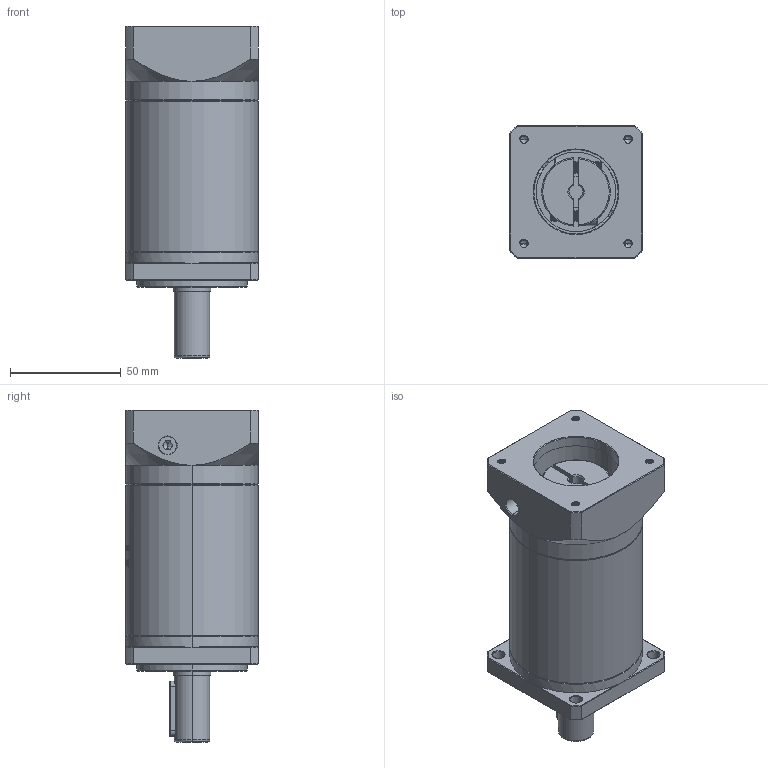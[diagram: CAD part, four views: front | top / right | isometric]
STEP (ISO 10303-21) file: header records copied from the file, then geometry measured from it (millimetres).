
FILE_DESCRIPTION (( 'STEP AP214' ), '1' );
FILE_NAME ('ZF060-D16-L3-P2-6.35-38.1-47.14X47.14-M4.step', '2023-08-16T04:29:00', ( '' ), ( '' ), 'SwSTEP 2.0', 'SolidWorks 2016', '' );
FILE_SCHEMA (( 'AUTOMOTIVE_DESIGN' ));
Length unit declared in the file: millimetre
Products named in the file (1): ZF060-D16-L3-P2-6.35-38.1-47.14X47.14-M4
Bounding box: 60 x 60 x 150 mm (x, y, z)
Volume: 326899.8 mm3; surface area: 50533.9 mm2
Topology: 6 solids, 6 shells, 1727 faces, 4678 edges, 3034 vertices
Faces by surface type: plane 794, bspline 354, cylinder 332, cone 229, torus 18
Entity records: 95971 total; most frequent: CARTESIAN_POINT 37662, ORIENTED_EDGE 9328, DIRECTION 6671, EDGE_CURVE 4664, VERTEX_POINT 3034, LINE 2367, VECTOR 2367, AXIS2_PLACEMENT_3D 2152
